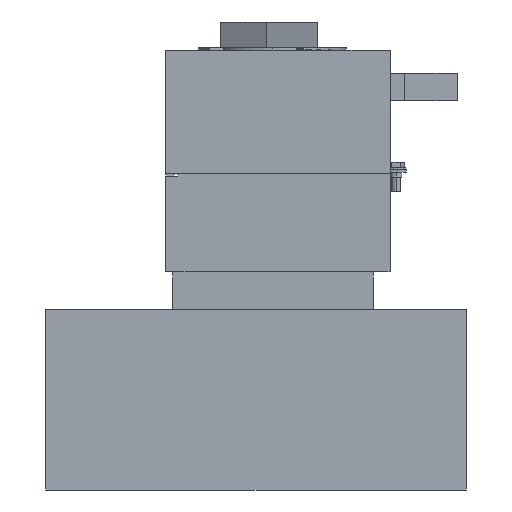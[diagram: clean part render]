
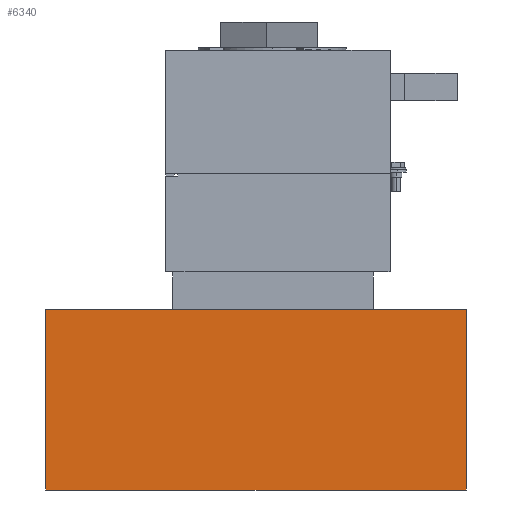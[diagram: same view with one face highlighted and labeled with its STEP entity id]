
A CAD part, left-side view. The second image highlights one B-rep face of the part: STEP entity #6340.
In plain terms, the highlighted planar face has unit normal (-1, 0, 0).
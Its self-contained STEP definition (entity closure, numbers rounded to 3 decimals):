
#144 = VECTOR ( 'NONE', #12387, 1000. ) ;
#167 = DIRECTION ( 'NONE',  ( 1., 0., 0. ) ) ;
#223 = CARTESIAN_POINT ( 'NONE',  ( -112.5, 112., 96.05 ) ) ;
#528 = EDGE_CURVE ( 'NONE', #2073, #8557, #946, .T. ) ;
#594 = LINE ( 'NONE', #8134, #5093 ) ;
#920 = DIRECTION ( 'NONE',  ( 0., -1., 0. ) ) ;
#946 = LINE ( 'NONE', #1404, #15947 ) ;
#1046 = CARTESIAN_POINT ( 'NONE',  ( -112.5, -112., 96.05 ) ) ;
#1404 = CARTESIAN_POINT ( 'NONE',  ( -112.5, -112., 96.05 ) ) ;
#1454 = VERTEX_POINT ( 'NONE', #11465 ) ;
#1551 = ORIENTED_EDGE ( 'NONE', *, *, #11479, .T. ) ;
#2073 = VERTEX_POINT ( 'NONE', #1046 ) ;
#2444 = VERTEX_POINT ( 'NONE', #15603 ) ;
#3812 = FACE_OUTER_BOUND ( 'NONE', #8662, .T. ) ;
#5093 = VECTOR ( 'NONE', #12159, 1000. ) ;
#6340 = ADVANCED_FACE ( 'NONE', ( #3812 ), #8080, .F. ) ;
#6487 = EDGE_CURVE ( 'NONE', #1454, #2073, #16165, .T. ) ;
#7114 = CARTESIAN_POINT ( 'NONE',  ( -112.5, 112., 96.05 ) ) ;
#8080 = PLANE ( 'NONE',  #8906 ) ;
#8134 = CARTESIAN_POINT ( 'NONE',  ( -112.5, 112., 96.05 ) ) ;
#8557 = VERTEX_POINT ( 'NONE', #9870 ) ;
#8662 = EDGE_LOOP ( 'NONE', ( #1551, #12157, #10479, #9768 ) ) ;
#8906 = AXIS2_PLACEMENT_3D ( 'NONE', #223, #167, #10679 ) ;
#9768 = ORIENTED_EDGE ( 'NONE', *, *, #10617, .T. ) ;
#9870 = CARTESIAN_POINT ( 'NONE',  ( -112.5, -112., 0. ) ) ;
#10479 = ORIENTED_EDGE ( 'NONE', *, *, #6487, .F. ) ;
#10617 = EDGE_CURVE ( 'NONE', #1454, #2444, #594, .T. ) ;
#10679 = DIRECTION ( 'NONE',  ( 0., 1., 0. ) ) ;
#11465 = CARTESIAN_POINT ( 'NONE',  ( -112.5, 112., 96.05 ) ) ;
#11479 = EDGE_CURVE ( 'NONE', #2444, #8557, #14098, .T. ) ;
#12157 = ORIENTED_EDGE ( 'NONE', *, *, #528, .F. ) ;
#12159 = DIRECTION ( 'NONE',  ( 0., 0., -1. ) ) ;
#12387 = DIRECTION ( 'NONE',  ( 0., -1., 0. ) ) ;
#12791 = CARTESIAN_POINT ( 'NONE',  ( -112.5, 112., 0. ) ) ;
#13570 = DIRECTION ( 'NONE',  ( 0., 0., -1. ) ) ;
#14098 = LINE ( 'NONE', #12791, #14949 ) ;
#14949 = VECTOR ( 'NONE', #920, 1000. ) ;
#15603 = CARTESIAN_POINT ( 'NONE',  ( -112.5, 112., 0. ) ) ;
#15947 = VECTOR ( 'NONE', #13570, 1000. ) ;
#16165 = LINE ( 'NONE', #7114, #144 ) ;
